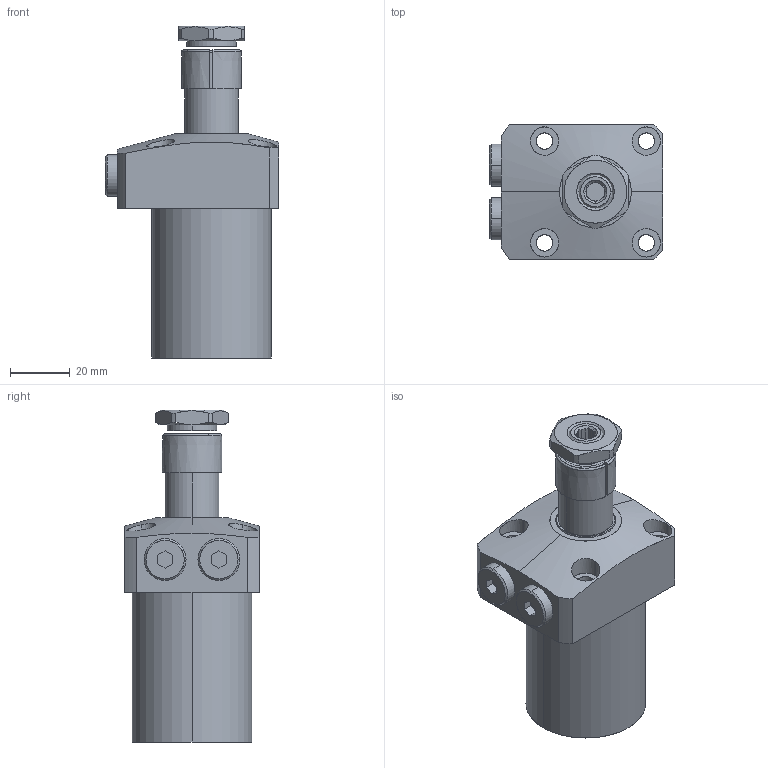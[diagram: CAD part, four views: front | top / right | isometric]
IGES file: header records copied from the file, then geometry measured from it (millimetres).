
Start section: SolidWorks IGES file using analytic representation for surfaces
Global section: file name: D:\abhilash\nijil\cylinder\lv\40\pt\0301-0092.IGS; native system: SolidWorks 2010; preprocessor: SolidWorks 2010; author: nidheesh; date: 130730.141759; units: millimetre
Bounding box: 58 x 45 x 111 mm (x, y, z)
Surface area: 21819.2 mm2 (no closed solid volume)
Topology: 0 solids, 0 shells, 166 faces, 3212 edges, 3208 vertices
Faces by surface type: revolution 93, bspline 73
